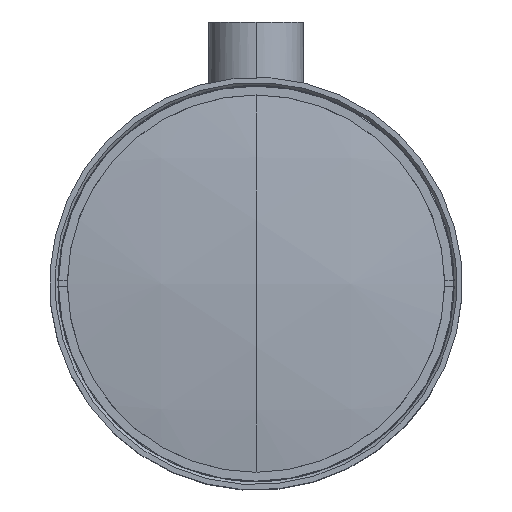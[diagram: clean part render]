
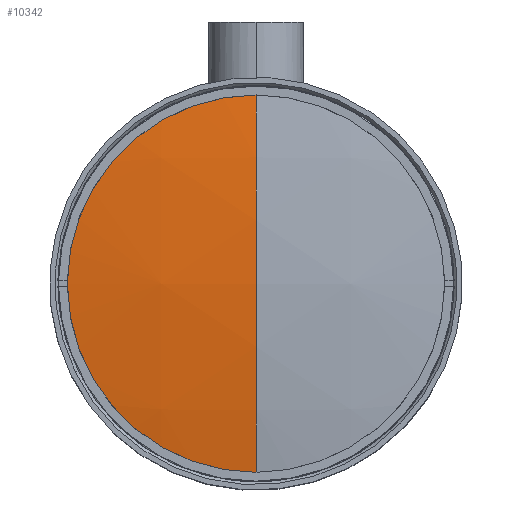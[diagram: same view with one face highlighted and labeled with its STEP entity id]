
A CAD part, top view. The second image highlights one B-rep face of the part: STEP entity #10342.
In plain terms, the highlighted spherical face has radius 207.5 mm.
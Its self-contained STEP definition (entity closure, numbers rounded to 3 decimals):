
#728 = DIRECTION ( 'NONE',  ( 1., 0., 0. ) ) ;
#878 = AXIS2_PLACEMENT_3D ( 'NONE', #8270, #3651, #4389 ) ;
#1054 = EDGE_CURVE ( 'NONE', #1770, #1273, #5838, .T. ) ;
#1144 = EDGE_LOOP ( 'NONE', ( #1467, #6603, #5439, #8721 ) ) ;
#1273 = VERTEX_POINT ( 'NONE', #12019 ) ;
#1467 = ORIENTED_EDGE ( 'NONE', *, *, #8499, .F. ) ;
#1770 = VERTEX_POINT ( 'NONE', #9900 ) ;
#1865 = CIRCLE ( 'NONE', #878, 32.03 ) ;
#2180 = DIRECTION ( 'NONE',  ( -1., 0., 0. ) ) ;
#2795 = CIRCLE ( 'NONE', #8585, 32.03 ) ;
#3180 = CARTESIAN_POINT ( 'NONE',  ( 0., 0., -128.04 ) ) ;
#3259 = AXIS2_PLACEMENT_3D ( 'NONE', #3180, #10861, #8044 ) ;
#3651 = DIRECTION ( 'NONE',  ( 0., 0., -1. ) ) ;
#4094 = CARTESIAN_POINT ( 'NONE',  ( 0., 32.03, 76.973 ) ) ;
#4389 = DIRECTION ( 'NONE',  ( -1., 0., 0. ) ) ;
#4514 = DIRECTION ( 'NONE',  ( 0., 0., -1. ) ) ;
#4909 = EDGE_CURVE ( 'NONE', #7234, #1273, #8641, .T. ) ;
#5410 = CARTESIAN_POINT ( 'NONE',  ( -32.03, 0., 76.973 ) ) ;
#5439 = ORIENTED_EDGE ( 'NONE', *, *, #4909, .F. ) ;
#5452 = CARTESIAN_POINT ( 'NONE',  ( 0., 0., -128.04 ) ) ;
#5838 = CIRCLE ( 'NONE', #3259, 207.5 ) ;
#6603 = ORIENTED_EDGE ( 'NONE', *, *, #1054, .T. ) ;
#6794 = CARTESIAN_POINT ( 'NONE',  ( 0., 0., -128.04 ) ) ;
#7234 = VERTEX_POINT ( 'NONE', #4094 ) ;
#7635 = AXIS2_PLACEMENT_3D ( 'NONE', #6794, #2180, #7792 ) ;
#7792 = DIRECTION ( 'NONE',  ( 0., 1., 0. ) ) ;
#8044 = DIRECTION ( 'NONE',  ( 0., -1., 0. ) ) ;
#8270 = CARTESIAN_POINT ( 'NONE',  ( 0., 0., 76.973 ) ) ;
#8499 = EDGE_CURVE ( 'NONE', #1770, #12186, #1865, .T. ) ;
#8585 = AXIS2_PLACEMENT_3D ( 'NONE', #10149, #9210, #9150 ) ;
#8641 = CIRCLE ( 'NONE', #10250, 207.5 ) ;
#8721 = ORIENTED_EDGE ( 'NONE', *, *, #9372, .F. ) ;
#8916 = SPHERICAL_SURFACE ( 'NONE', #7635, 207.5 ) ;
#9150 = DIRECTION ( 'NONE',  ( -1., 0., 0. ) ) ;
#9210 = DIRECTION ( 'NONE',  ( 0., 0., -1. ) ) ;
#9372 = EDGE_CURVE ( 'NONE', #12186, #7234, #2795, .T. ) ;
#9744 = FACE_OUTER_BOUND ( 'NONE', #1144, .T. ) ;
#9900 = CARTESIAN_POINT ( 'NONE',  ( 0., -32.03, 76.973 ) ) ;
#10149 = CARTESIAN_POINT ( 'NONE',  ( 0., 0., 76.973 ) ) ;
#10250 = AXIS2_PLACEMENT_3D ( 'NONE', #5452, #728, #4514 ) ;
#10342 = ADVANCED_FACE ( 'NONE', ( #9744 ), #8916, .T. ) ;
#10861 = DIRECTION ( 'NONE',  ( -1., 0., 0. ) ) ;
#12019 = CARTESIAN_POINT ( 'NONE',  ( 0., 0., 79.46 ) ) ;
#12186 = VERTEX_POINT ( 'NONE', #5410 ) ;
